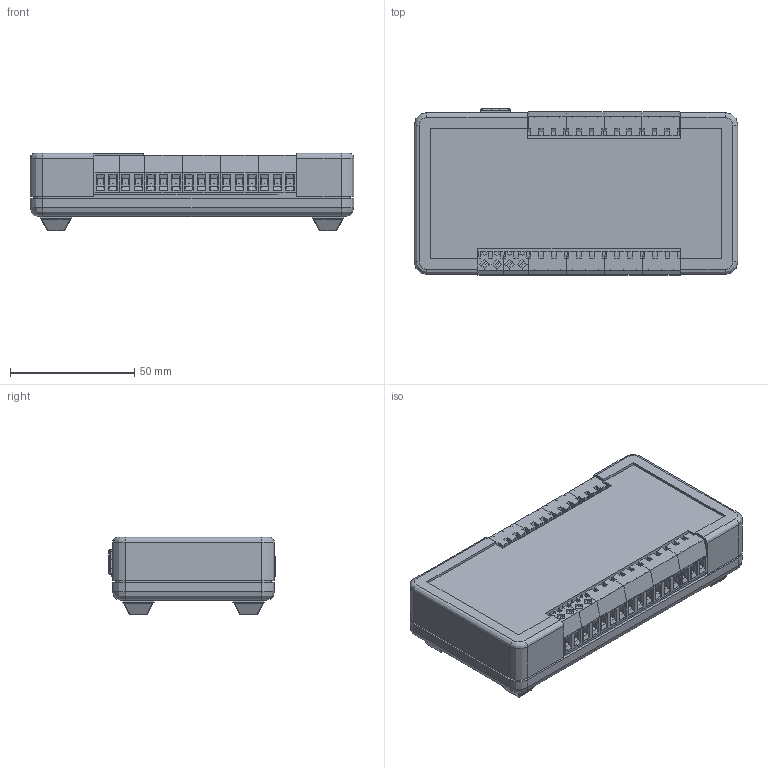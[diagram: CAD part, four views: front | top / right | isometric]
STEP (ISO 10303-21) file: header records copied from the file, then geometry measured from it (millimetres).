
FILE_DESCRIPTION (( 'STEP AP214' ), '1' );
FILE_NAME ('ADU 2X8 Terminal Block, Desktop.STEP', '2026-10-01T20:11:40', ( '' ), ( '' ), 'SwSTEP 2.0', 'SolidWorks 2015', '' );
FILE_SCHEMA (( 'AUTOMOTIVE_DESIGN' ));
Length unit declared in the file: millimetre
Products named in the file (42): SJ5018; 91420A128_METRIC FLAT HEAD PHILLIPS MACHINE SCREW; Wieland_25.163.0253.0_CAD STEP data; Wieland_25.163.0353.0_CAD STEP data; 91420A128_METRIC FLAT HEAD PHILLIPS MACHINE SCREW_91420A128; 94510A240_BRASS SCREW-TO-EXPAND INSERTS FOR PLASTICS_94510A240; ADU Top; USB; 94510A240_BRASS SCREW-TO-EXPAND INSERTS FOR PLASTICS; 90380A106_PHILLIPS THREAD-FORMING SCREW FOR PLASTIC_90380A106; PCB; ADU Base; ADU 2X8 Terminal Block, Desktop; 90380A106_PHILLIPS THREAD-FORMING SCREW FOR PLASTIC
Assembly tree (42 placements, depth 2):
  Wieland_25.163.0353.0_CAD STEP data
  Wieland_25.163.0353.0_CAD STEP data
  Wieland_25.163.0353.0_CAD STEP data
  Wieland_25.163.0353.0_CAD STEP data
  SJ5018
Bounding box: 130 x 66.8 x 31.3 mm (x, y, z)
Volume: 83972 mm3; surface area: 82124.2 mm2
Topology: 29 solids, 30 shells, 6767 faces, 15965 edges, 9375 vertices
Faces by surface type: bspline 3170, plane 1993, cylinder 1338, cone 222, torus 24, sphere 20
Full cylindrical faces by diameter (mm): 2.15 x4, 3 x144, 3.175 x4, 3.4 x4, 3.76 x4, 4 x32, 5 x4, 5.537 x4, 5.563 x4, 6.3 x4, 6.5 x4, 7 x8
Entity records: 125732 total; most frequent: CARTESIAN_POINT 78177, ORIENTED_EDGE 10846, DIRECTION 6600, EDGE_CURVE 5427, VERTEX_POINT 3278, VECTOR 2432, LINE 2432, EDGE_LOOP 2405
